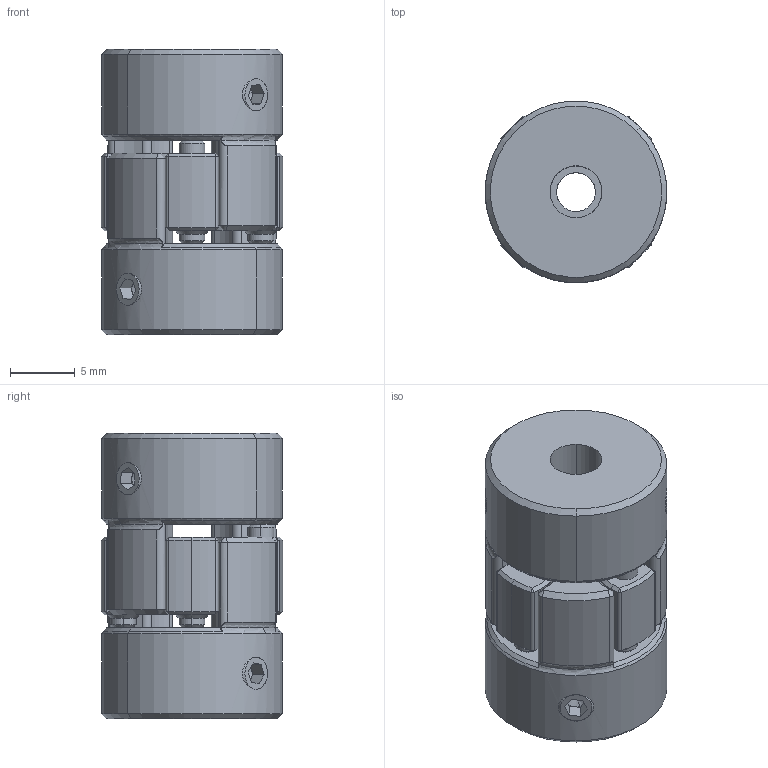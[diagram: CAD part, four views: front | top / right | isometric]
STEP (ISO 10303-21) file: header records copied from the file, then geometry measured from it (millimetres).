
FILE_DESCRIPTION (( 'STEP AP203' ), '1' );
FILE_NAME ('LF-D-D14L22-3-4.STEP', '2021-10-26T05:37:35', ( '' ), ( '' ), 'SwSTEP 2.0', 'SolidWorks 2018', '' );
FILE_SCHEMA (( 'CONFIG_CONTROL_DESIGN' ));
Length unit declared in the file: millimetre
Products named in the file (1): LF-D-D14L22-3-4
Bounding box: 14 x 14 x 22 mm (x, y, z)
Volume: 2817.1 mm3; surface area: 2142.4 mm2
Topology: 1 solids, 1 shells, 353 faces, 891 edges, 516 vertices
Faces by surface type: cone 164, cylinder 115, plane 66, torus 8
Entity records: 10889 total; most frequent: CARTESIAN_POINT 2242, DIRECTION 1947, ORIENTED_EDGE 1734, EDGE_CURVE 867, AXIS2_PLACEMENT_3D 784, VERTEX_POINT 516, CIRCLE 430, EDGE_LOOP 383
